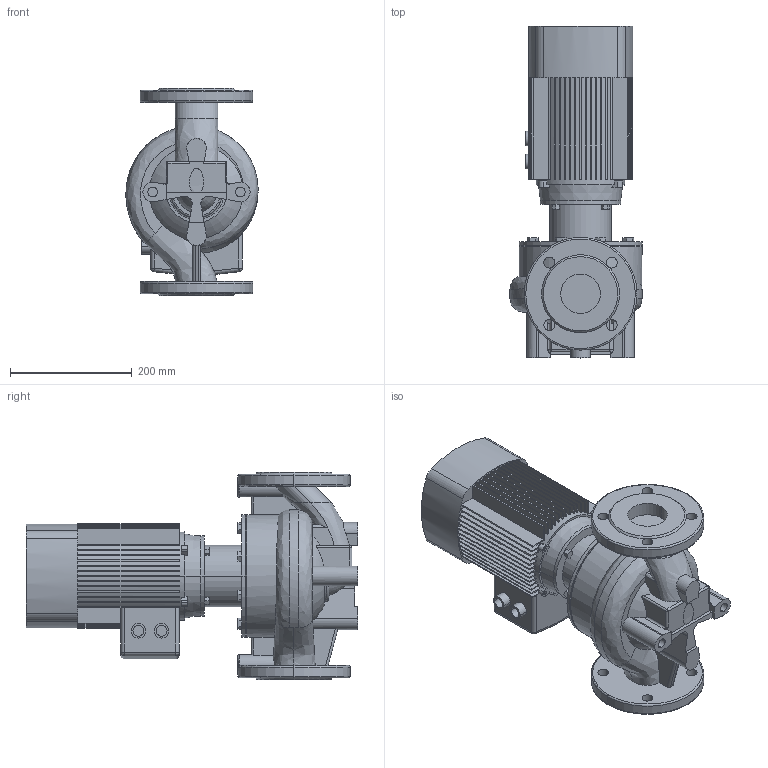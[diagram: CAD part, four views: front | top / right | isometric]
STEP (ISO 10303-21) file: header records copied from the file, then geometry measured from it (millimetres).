
FILE_DESCRIPTION (( 'STEP AP203' ), '1' );
FILE_NAME ('TD65-15G_2.STEP', '2022-05-02T18:50:08', ( '' ), ( '' ), 'SwSTEP 2.0', 'SolidWorks 2019', '' );
FILE_SCHEMA (( 'CONFIG_CONTROL_DESIGN' ));
Length unit declared in the file: millimetre
Products named in the file (4): Pr_ch 65_TD65-15G_2; TD65-15G_2; Fon_65_TD65-15G_2; ED_B14_YE2-90L-2 (2.2)
Assembly tree (3 placements, depth 2):
  TD65-15G_2
    Pr_ch 65_TD65-15G_2
    Fon_65_TD65-15G_2
    ED_B14_YE2-90L-2 (2.2)
Bounding box: 217.13 x 545 x 340 mm (x, y, z)
Volume: 13127567.1 mm3; surface area: 966276 mm2
Topology: 3 solids, 5 shells, 654 faces, 1771 edges, 1162 vertices
Faces by surface type: plane 429, cylinder 157, bspline 26, torus 25, cone 11, sphere 6
Entity records: 26942 total; most frequent: CARTESIAN_POINT 9904, ORIENTED_EDGE 3538, DIRECTION 3446, EDGE_CURVE 1769, AXIS2_PLACEMENT_3D 1213, VERTEX_POINT 1162, LINE 1020, VECTOR 1020
